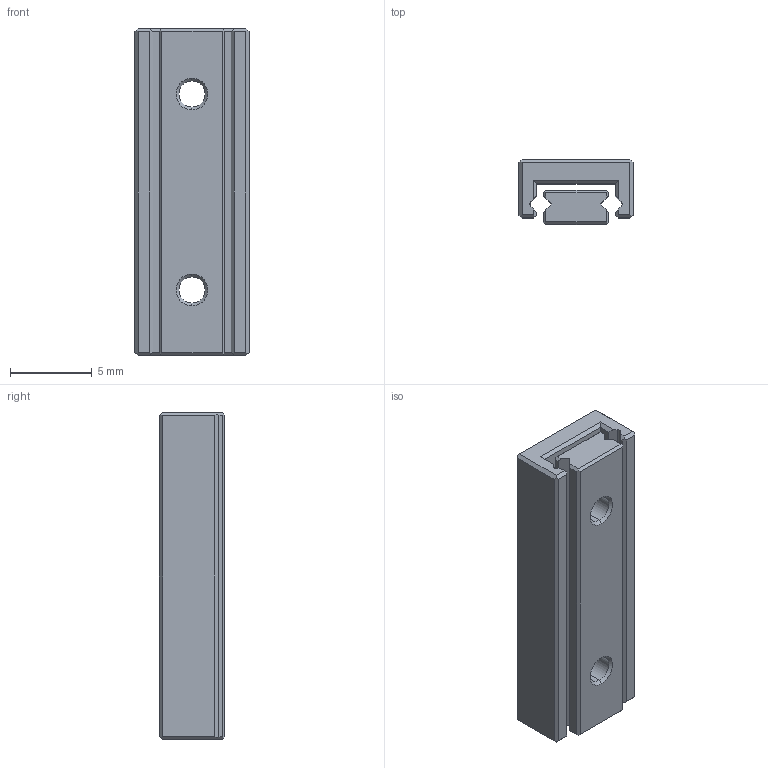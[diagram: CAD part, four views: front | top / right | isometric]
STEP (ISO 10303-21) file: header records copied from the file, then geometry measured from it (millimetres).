
FILE_DESCRIPTION (( 'STEP AP214' ), '1' );
FILE_NAME ('PMM 05-20.STEP', '2012-03-02T10:16:45', ( '' ), ( '' ), 'SwSTEP 2.0', 'SolidWorks 2011', '' );
FILE_SCHEMA (( 'AUTOMOTIVE_DESIGN' ));
Length unit declared in the file: millimetre
Products named in the file (1): PMM 05-20
Bounding box: 7 x 4 x 20 mm (x, y, z)
Volume: 430.4 mm3; surface area: 817.3 mm2
Topology: 2 solids, 2 shells, 244 faces, 652 edges, 428 vertices
Faces by surface type: plane 174, bspline 43, cone 16, cylinder 11
Entity records: 11385 total; most frequent: CARTESIAN_POINT 3936, ORIENTED_EDGE 1304, DIRECTION 1008, EDGE_CURVE 652, VECTOR 528, LINE 528, VERTEX_POINT 428, EDGE_LOOP 268
